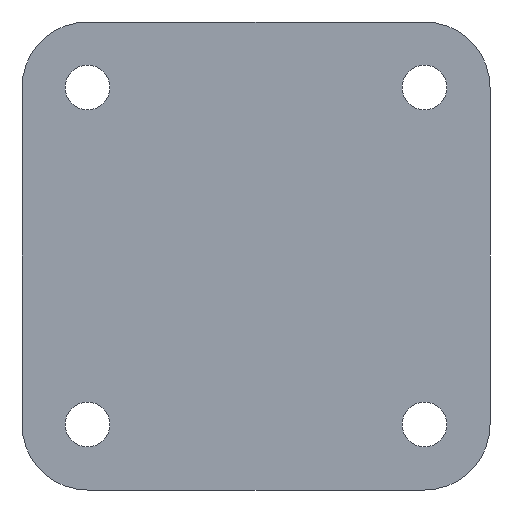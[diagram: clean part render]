
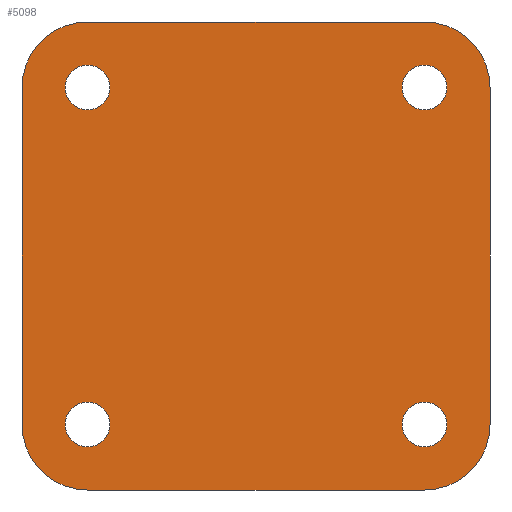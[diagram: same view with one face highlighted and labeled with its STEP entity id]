
A CAD part, front view. The second image highlights one B-rep face of the part: STEP entity #5098.
In plain terms, the highlighted planar face has unit normal (0, -1, 0).
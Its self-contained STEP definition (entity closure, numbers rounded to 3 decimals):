
#106=FACE_BOUND('',#1833,.T.);
#107=FACE_BOUND('',#1834,.T.);
#108=FACE_BOUND('',#1835,.T.);
#109=FACE_BOUND('',#1836,.T.);
#128=PLANE('',#5491);
#423=LINE('',#8488,#910);
#424=LINE('',#8490,#911);
#425=LINE('',#8492,#912);
#426=LINE('',#8494,#913);
#910=VECTOR('',#6069,1000.);
#911=VECTOR('',#6072,1000.);
#912=VECTOR('',#6075,1000.);
#913=VECTOR('',#6078,1000.);
#1529=FACE_OUTER_BOUND('',#1832,.T.);
#1832=EDGE_LOOP('',(#3837,#3838,#3839,#3840,#3841,#3842,#3843,#3844));
#1833=EDGE_LOOP('',(#3845));
#1834=EDGE_LOOP('',(#3846));
#1835=EDGE_LOOP('',(#3847));
#1836=EDGE_LOOP('',(#3848));
#2123=CIRCLE('',#5422,6.);
#2125=CIRCLE('',#5425,6.);
#2127=CIRCLE('',#5428,6.);
#2129=CIRCLE('',#5431,6.);
#2139=CIRCLE('',#5447,17.5);
#2141=CIRCLE('',#5450,17.5);
#2143=CIRCLE('',#5453,17.5);
#2145=CIRCLE('',#5456,17.5);
#2269=VERTEX_POINT('',#7571);
#2271=VERTEX_POINT('',#7577);
#2273=VERTEX_POINT('',#7583);
#2275=VERTEX_POINT('',#7589);
#2295=VERTEX_POINT('',#7638);
#2296=VERTEX_POINT('',#7639);
#2297=VERTEX_POINT('',#7645);
#2298=VERTEX_POINT('',#7646);
#2299=VERTEX_POINT('',#7652);
#2300=VERTEX_POINT('',#7653);
#2301=VERTEX_POINT('',#7659);
#2302=VERTEX_POINT('',#7660);
#2797=EDGE_CURVE('',#2269,#2269,#2123,.T.);
#2800=EDGE_CURVE('',#2271,#2271,#2125,.T.);
#2803=EDGE_CURVE('',#2273,#2273,#2127,.T.);
#2806=EDGE_CURVE('',#2275,#2275,#2129,.T.);
#2829=EDGE_CURVE('',#2295,#2296,#2139,.T.);
#2833=EDGE_CURVE('',#2297,#2298,#2141,.T.);
#2837=EDGE_CURVE('',#2299,#2300,#2143,.T.);
#2841=EDGE_CURVE('',#2301,#2302,#2145,.T.);
#2986=EDGE_CURVE('',#2302,#2295,#423,.T.);
#2987=EDGE_CURVE('',#2300,#2301,#424,.T.);
#2988=EDGE_CURVE('',#2298,#2299,#425,.T.);
#2989=EDGE_CURVE('',#2296,#2297,#426,.T.);
#3837=ORIENTED_EDGE('',*,*,#2833,.F.);
#3838=ORIENTED_EDGE('',*,*,#2989,.F.);
#3839=ORIENTED_EDGE('',*,*,#2829,.F.);
#3840=ORIENTED_EDGE('',*,*,#2986,.F.);
#3841=ORIENTED_EDGE('',*,*,#2841,.F.);
#3842=ORIENTED_EDGE('',*,*,#2987,.F.);
#3843=ORIENTED_EDGE('',*,*,#2837,.F.);
#3844=ORIENTED_EDGE('',*,*,#2988,.F.);
#3845=ORIENTED_EDGE('',*,*,#2797,.T.);
#3846=ORIENTED_EDGE('',*,*,#2800,.T.);
#3847=ORIENTED_EDGE('',*,*,#2803,.T.);
#3848=ORIENTED_EDGE('',*,*,#2806,.T.);
#5098=ADVANCED_FACE('',(#1529,#106,#107,#108,#109),#128,.F.);
#5422=AXIS2_PLACEMENT_3D('',#7572,#5836,#5837);
#5425=AXIS2_PLACEMENT_3D('',#7578,#5843,#5844);
#5428=AXIS2_PLACEMENT_3D('',#7584,#5850,#5851);
#5431=AXIS2_PLACEMENT_3D('',#7590,#5857,#5858);
#5447=AXIS2_PLACEMENT_3D('',#7640,#5902,#5903);
#5450=AXIS2_PLACEMENT_3D('',#7647,#5910,#5911);
#5453=AXIS2_PLACEMENT_3D('',#7654,#5918,#5919);
#5456=AXIS2_PLACEMENT_3D('',#7661,#5926,#5927);
#5491=AXIS2_PLACEMENT_3D('',#8495,#6079,#6080);
#5836=DIRECTION('center_axis',(0.,1.,0.));
#5837=DIRECTION('ref_axis',(-1.,0.,0.));
#5843=DIRECTION('center_axis',(0.,1.,0.));
#5844=DIRECTION('ref_axis',(-1.,0.,0.));
#5850=DIRECTION('center_axis',(0.,1.,0.));
#5851=DIRECTION('ref_axis',(-1.,0.,0.));
#5857=DIRECTION('center_axis',(0.,1.,0.));
#5858=DIRECTION('ref_axis',(-1.,0.,0.));
#5902=DIRECTION('center_axis',(0.,1.,0.));
#5903=DIRECTION('ref_axis',(-0.707,0.,-0.707));
#5910=DIRECTION('center_axis',(0.,1.,0.));
#5911=DIRECTION('ref_axis',(-0.707,0.,0.707));
#5918=DIRECTION('center_axis',(0.,1.,0.));
#5919=DIRECTION('ref_axis',(0.707,0.,0.707));
#5926=DIRECTION('center_axis',(0.,1.,0.));
#5927=DIRECTION('ref_axis',(0.707,0.,-0.707));
#6069=DIRECTION('',(-1.,0.,0.));
#6072=DIRECTION('',(0.,0.,-1.));
#6075=DIRECTION('',(1.,0.,0.));
#6078=DIRECTION('',(0.,0.,1.));
#6079=DIRECTION('center_axis',(0.,1.,0.));
#6080=DIRECTION('ref_axis',(1.,0.,0.));
#7571=CARTESIAN_POINT('',(51.,0.,45.));
#7572=CARTESIAN_POINT('Origin',(45.,0.,45.));
#7577=CARTESIAN_POINT('',(51.,0.,-45.));
#7578=CARTESIAN_POINT('Origin',(45.,0.,-45.));
#7583=CARTESIAN_POINT('',(-39.,0.,-45.));
#7584=CARTESIAN_POINT('Origin',(-45.,0.,-45.));
#7589=CARTESIAN_POINT('',(-39.,0.,45.));
#7590=CARTESIAN_POINT('Origin',(-45.,0.,45.));
#7638=CARTESIAN_POINT('',(-45.,0.,-62.5));
#7639=CARTESIAN_POINT('',(-62.5,0.,-45.));
#7640=CARTESIAN_POINT('Origin',(-45.,0.,-45.));
#7645=CARTESIAN_POINT('',(-62.5,0.,45.));
#7646=CARTESIAN_POINT('',(-45.,0.,62.5));
#7647=CARTESIAN_POINT('Origin',(-45.,0.,45.));
#7652=CARTESIAN_POINT('',(45.,0.,62.5));
#7653=CARTESIAN_POINT('',(62.5,0.,45.));
#7654=CARTESIAN_POINT('Origin',(45.,0.,45.));
#7659=CARTESIAN_POINT('',(62.5,0.,-45.));
#7660=CARTESIAN_POINT('',(45.,0.,-62.5));
#7661=CARTESIAN_POINT('Origin',(45.,0.,-45.));
#8488=CARTESIAN_POINT('',(62.5,0.,-62.5));
#8490=CARTESIAN_POINT('',(62.5,0.,62.5));
#8492=CARTESIAN_POINT('',(-62.5,0.,62.5));
#8494=CARTESIAN_POINT('',(-62.5,0.,-62.5));
#8495=CARTESIAN_POINT('Origin',(0.,0.,0.));
